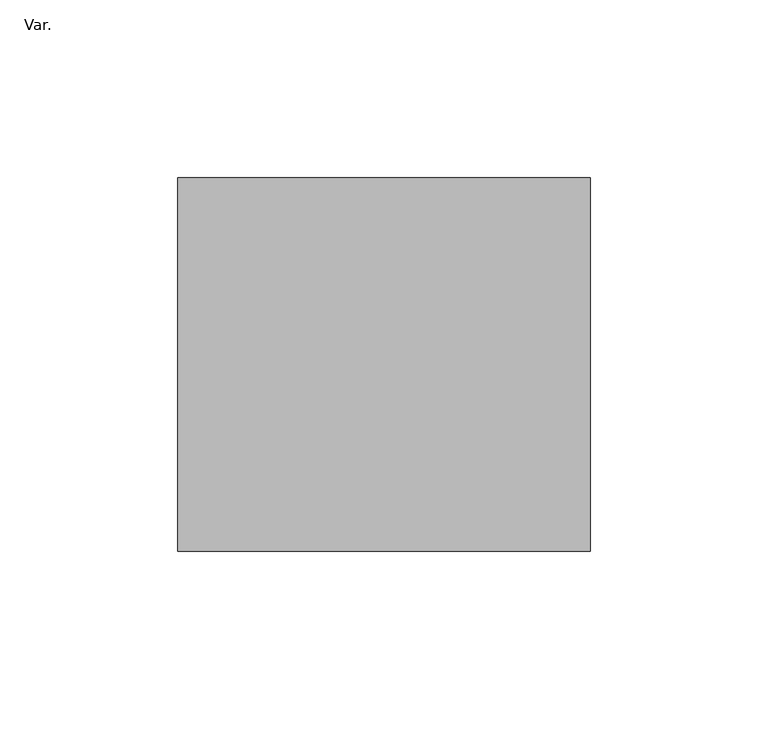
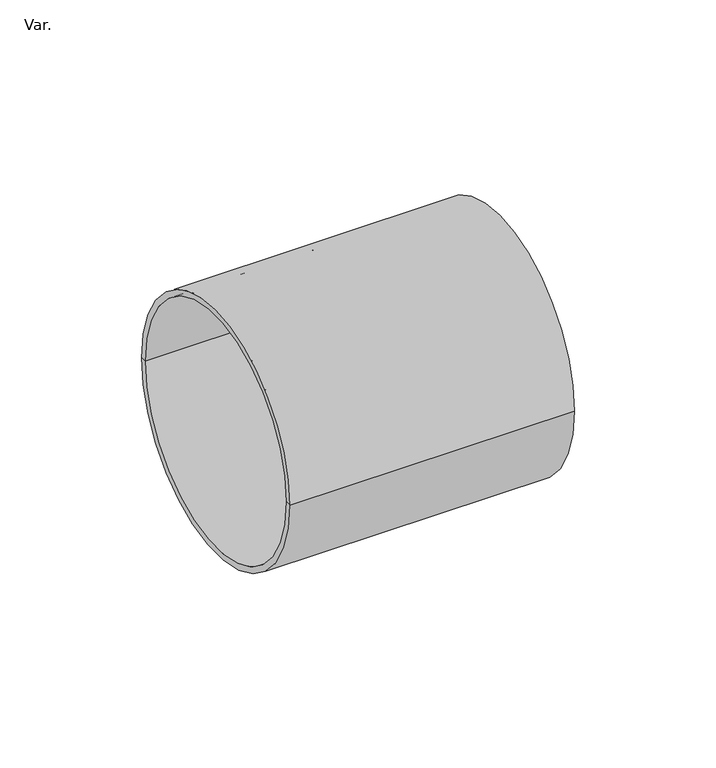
"""IFC4 building model written with IfcOpenShell, lengths in millimetres: pipe fitting geometry, AmancoWavin_ConexõesdeTubos_QSUnião : Var.."""

import ifcopenshell
import ifcopenshell.guid

model = None  # the IFC model being written
_history = None  # IfcOwnerHistory: only IFC2X3 demands one
_inside = {}  # id of a spatial element -> (the spatial element, [elements in it])
_under = {}  # id of a project, library or spatial element -> (it, [spatial elements below it])
_declared = {}  # id of a project -> (the project, [libraries it declares])
_typed = {}  # id of a type object -> (the type object, [elements of that type])
_made_of = {}  # id of a material, layer set ... -> (it, [elements and type objects made of it])


def new_model(schema):
    """Start an empty IFC model of exactly this schema.

    Asked for "IFC4X3", IfcOpenShell would pick the latest addendum, in which some entities
    have other attributes; the version numbers below select the first issue.
    IFC2X3 requires an IfcOwnerHistory on every rooted entity: one is made here for all.
    """
    global model, _history
    if schema == "IFC4X3":
        model = ifcopenshell.file(schema_version=(4, 3, 0, 0))
    else:
        model = ifcopenshell.file(schema=schema)
    _inside.clear()
    _under.clear()
    _declared.clear()
    _typed.clear()
    _made_of.clear()
    _history = None
    if model.schema == "IFC2X3":
        org = make("IfcOrganization", Name="unknown")
        user = make(
            "IfcPersonAndOrganization",
            ThePerson=make("IfcPerson", FamilyName="unknown"),
            TheOrganization=org,
        )
        app = make(
            "IfcApplication",
            ApplicationDeveloper=org,
            Version="unknown",
            ApplicationFullName="unknown",
            ApplicationIdentifier="unknown",
        )
        _history = make(
            "IfcOwnerHistory",
            OwningUser=user,
            OwningApplication=app,
            ChangeAction="ADDED",
            CreationDate=0,
        )
    return model


def make(cls, **values):
    """One entity of the class cls with the attributes given. An attribute that is None is left unset."""
    return model.create_entity(
        cls, **{name: value for name, value in values.items() if value is not None}
    )


def rooted(cls, **values):
    """An entity with a GlobalId (a new one), such as an element, a storey or a relation."""
    return make(cls, GlobalId=ifcopenshell.guid.new(), OwnerHistory=_history, **values)


def si_unit(unit_type, name, prefix=None):
    """IfcSIUnit, for example si_unit("LENGTHUNIT", "METRE", prefix="MILLI")."""
    return make("IfcSIUnit", UnitType=unit_type, Prefix=prefix, Name=name)


def assignment(units):
    """IfcUnitAssignment: the units of a project."""
    return None if units is None else make("IfcUnitAssignment", Units=units)


def point(xyz):
    """IfcCartesianPoint."""
    return None if xyz is None else make("IfcCartesianPoint", Coordinates=xyz)


def direction(xyz):
    """IfcDirection."""
    return None if xyz is None else make("IfcDirection", DirectionRatios=xyz)


def frame(location, z_axis=None, x_axis=None):
    """IfcAxis2Placement3D, a coordinate frame: its origin and axes. An axis left out is left unset."""
    return make(
        "IfcAxis2Placement3D",
        Location=point(location),
        Axis=direction(z_axis),
        RefDirection=direction(x_axis),
    )


def origin():
    """The frame at (0, 0, 0) with its axes left unset."""
    return frame((0.0, 0.0, 0.0))


def place(relative_to, where):
    """IfcLocalPlacement: puts the frame where relative to a parent placement (None: the world)."""
    return make(
        "IfcLocalPlacement", PlacementRelTo=relative_to, RelativePlacement=where
    )


def context(
    kind, dimensions, precision=None, world=None, true_north=None, identifier=None
):
    """IfcGeometricRepresentationContext, for example the 3D "Model" context."""
    return make(
        "IfcGeometricRepresentationContext",
        ContextIdentifier=identifier,
        ContextType=kind,
        CoordinateSpaceDimension=dimensions,
        Precision=precision,
        WorldCoordinateSystem=world,
        TrueNorth=true_north,
    )


def project(units=None, contexts=None):
    """IfcProject with its units and contexts."""
    return rooted(
        "IfcProject",
        Name="project",
        RepresentationContexts=contexts,
        UnitsInContext=assignment(units),
    )


def spatial(cls, under=None, at=None, **own):
    """A site, building, storey or space (cls), placed at a placement, below another one or the project."""
    s = rooted(cls, ObjectPlacement=at, **own)
    if under is not None:
        _under.setdefault(under.id(), (under, []))[1].append(s)
    return s


def polyline(points):
    """IfcPolyline through the points."""
    return make("IfcPolyline", Points=[point(p) for p in points])


def circle_curve(where, radius):
    """IfcCircle in the frame where."""
    return make("IfcCircle", Position=where, Radius=radius)


def shape(context_of_items, identifier, shape_type, items):
    """IfcShapeRepresentation: the items that make up one representation, for example the "Body"."""
    return make(
        "IfcShapeRepresentation",
        ContextOfItems=context_of_items,
        RepresentationIdentifier=identifier,
        RepresentationType=shape_type,
        Items=items,
    )


def source(mapping_origin, context_of_items, identifier, shape_type, items):
    """IfcRepresentationMap: a shape defined once, which mapped items show again and again."""
    return make(
        "IfcRepresentationMap",
        MappingOrigin=mapping_origin,
        MappedRepresentation=shape(context_of_items, identifier, shape_type, items),
    )


def transform(
    local_origin,
    x_axis=None,
    y_axis=None,
    z_axis=None,
    scale=None,
    scale2=None,
    scale3=None,
    uniform=True,
):
    """IfcCartesianTransformationOperator3D, or its non-uniform kind. x_axis, y_axis, z_axis: its Axis1, 2, 3."""
    if uniform:
        return make(
            "IfcCartesianTransformationOperator3D",
            Axis1=direction(x_axis),
            Axis2=direction(y_axis),
            LocalOrigin=point(local_origin),
            Scale=scale,
            Axis3=direction(z_axis),
        )
    return make(
        "IfcCartesianTransformationOperator3DnonUniform",
        Axis1=direction(x_axis),
        Axis2=direction(y_axis),
        LocalOrigin=point(local_origin),
        Scale=scale,
        Axis3=direction(z_axis),
        Scale2=scale2,
        Scale3=scale3,
    )


def mapped(mapping_source, mapping_target):
    """IfcMappedItem: shows the shape of a source again, moved by a transform."""
    return make(
        "IfcMappedItem", MappingSource=mapping_source, MappingTarget=mapping_target
    )


def made_of(thing, what):
    """Note that an element or type object is made of a material, layer set ...; save() writes the relation."""
    if what is not None:
        _made_of.setdefault(what.id(), (what, []))[1].append(thing)
    return thing


def element(
    cls,
    number,
    at=None,
    inside=None,
    cuts=None,
    type_object=None,
    material=None,
    context=None,
    identifier="Body",
    shape_type=None,
    held_by="IfcProductDefinitionShape",
    body=None,
    shapes=None,
    **own,
):
    """One element of the class cls, such as IfcWall. Its Tag is "e" and its number.

    at: its placement. inside: the storey or other place that contains it. cuts: it is an
    opening in that element (IfcRelVoidsElement). A single representation is given by context,
    identifier, shape_type and body (its items); several are given by shapes. held_by: the class
    of the entity that holds the representations. save() writes the other relations.
    """
    e = rooted(cls, Tag="e%d" % number, ObjectPlacement=at, **own)
    if body is not None:
        shapes = [shape(context, identifier, shape_type, body)]
    if shapes is not None:
        e.Representation = make(held_by, Representations=shapes)
    if inside is not None:
        _inside.setdefault(inside.id(), (inside, []))[1].append(e)
    if cuts is not None:
        rooted(
            "IfcRelVoidsElement", RelatingBuildingElement=cuts, RelatedOpeningElement=e
        )
    if type_object is not None:
        _typed.setdefault(type_object.id(), (type_object, []))[1].append(e)
    return made_of(e, material)


def aggregate(whole, parts):
    """IfcRelAggregates: a whole, such as a stair, and the parts it consists of."""
    return rooted("IfcRelAggregates", RelatingObject=whole, RelatedObjects=parts)


def save(model, path):
    """Write the relations noted so far, then the file.

    IfcRelAggregates (storeys below a building ...), IfcRelContainedInSpatialStructure (elements
    in a storey), IfcRelDefinesByType, IfcRelAssociatesMaterial and IfcRelDeclares: one each for
    every whole, place, type object, material and project.
    """
    for whole, parts in _under.values():
        aggregate(whole, parts)
    for where, things in _inside.values():
        rooted(
            "IfcRelContainedInSpatialStructure",
            RelatedElements=things,
            RelatingStructure=where,
        )
    for kind, things in _typed.values():
        rooted("IfcRelDefinesByType", RelatedObjects=things, RelatingType=kind)
    for what, things in _made_of.values():
        rooted("IfcRelAssociatesMaterial", RelatedObjects=things, RelatingMaterial=what)
    for by, libraries in _declared.values():
        rooted("IfcRelDeclares", RelatingContext=by, RelatedDefinitions=libraries)
    model.write(path)


def plane_surface(at):
    """IfcPlane: the flat surface through the origin of the frame at, square to its z axis."""
    return make("IfcPlane", Position=at)


def cylinder_surface(at, radius):
    """IfcCylindricalSurface: all points at the distance radius from the z axis of the frame at."""
    return make("IfcCylindricalSurface", Position=at, Radius=radius)


def revolved_surface(curve, axis_point, axis_direction):
    """IfcSurfaceOfRevolution: the curve turned about the line through axis_point along axis_direction."""
    return make(
        "IfcSurfaceOfRevolution",
        SweptCurve=make("IfcArbitraryOpenProfileDef", ProfileType="CURVE", Curve=curve),
        AxisPosition=make("IfcAxis1Placement", Location=point(axis_point), Axis=direction(axis_direction)),
    )


def advanced_brep(points, edges, surfaces, faces):
    """IfcAdvancedBrep: a solid bounded by faces that lie on surfaces and meet in shared edges.

    An edge is (start, end): straight between two places in points (the first is 0);
    or (start, end, curve); or (start, end, curve, False) where it runs against its curve.
    A face is (place in surfaces, loops), or (place, loops, False) where it looks against
    its surface's normal. A loop lists edges by number (the first is 1), with a minus sign
    where the edge is run from its end to its start. The first loop is the outer one.
    """
    corners = [point(p) for p in points]
    vertices = [make("IfcVertexPoint", VertexGeometry=c) for c in corners]
    made = []
    for start, end, *more in edges:
        made.append(
            make(
                "IfcEdgeCurve",
                EdgeStart=vertices[start],
                EdgeEnd=vertices[end],
                EdgeGeometry=more[0] if more else make("IfcPolyline", Points=[corners[start], corners[end]]),
                SameSense=more[1] if len(more) > 1 else True,
            )
        )
    hull = []
    for where, loops, *sense in faces:
        bounds = []
        for j, loop in enumerate(loops):
            ring = [make("IfcOrientedEdge", EdgeElement=made[abs(k) - 1], Orientation=k > 0) for k in loop]
            bounds.append(
                make(
                    "IfcFaceOuterBound" if j == 0 else "IfcFaceBound",
                    Bound=make("IfcEdgeLoop", EdgeList=ring),
                    Orientation=True,
                )
            )
        hull.append(make("IfcAdvancedFace", Bounds=bounds, FaceSurface=surfaces[where], SameSense=sense[0] if sense else True))
    return make("IfcAdvancedBrep", Outer=make("IfcClosedShell", CfsFaces=hull))


def var_5ac05391(model_context):
    return source(origin(), model_context, "Body", "AdvancedBrep", [
        advanced_brep(
        [(-2.0, 0.0, 0.0), (-2.0, 50.0, 0.0), (-2.0, -50.0, 0.0), (2.0, -50.0, 0.0), (2.0, 50.0, 0.0), (2.0, 0.0, 0.0), (58.0, -50.0, 0.0), (58.0, 50.0, 0.0), (58.0, -52.5, 0.0), (58.0, 52.5, 0.0), (-58.0, -52.5, 0.0), (-58.0, 52.5, 0.0), (-58.0, -50.0, 0.0), (-58.0, 50.0, 0.0)],
        [
            (0, 1),
            (1, 2, circle_curve(frame((-2.0, 0.0, 0.0), z_axis=(-1.0, 0.0, 0.0), x_axis=(0.0, 1.0, 0.0)), 50.0)),
            (2, 0),
            (2, 1, circle_curve(frame((-2.0, 0.0, 0.0), z_axis=(-1.0, 0.0, 0.0), x_axis=(0.0, 1.0, 0.0)), 50.0)),
            (3, 4, circle_curve(frame((2.0, 0.0, 0.0), z_axis=(1.0, 0.0, 0.0), x_axis=(0.0, 1.0, 0.0)), 50.0)),
            (4, 5),
            (5, 3),
            (4, 3, circle_curve(frame((2.0, 0.0, 0.0), z_axis=(1.0, 0.0, 0.0), x_axis=(0.0, 1.0, 0.0)), 50.0)),
            (6, 7, circle_curve(frame((58.0, 0.0, 0.0), z_axis=(1.0, 0.0, 0.0), x_axis=(0.0, 1.0, 0.0)), 50.0)),
            (7, 4),
            (3, 6),
            (7, 6, circle_curve(frame((58.0, 0.0, 0.0), z_axis=(1.0, 0.0, 0.0), x_axis=(0.0, 1.0, 0.0)), 50.0)),
            (8, 9, circle_curve(frame((58.0, 0.0, 0.0), z_axis=(1.0, 0.0, 0.0), x_axis=(0.0, 1.0, 0.0)), 52.5)),
            (9, 7),
            (6, 8),
            (9, 8, circle_curve(frame((58.0, 0.0, 0.0), z_axis=(1.0, 0.0, 0.0), x_axis=(0.0, 1.0, 0.0)), 52.5)),
            (10, 11, circle_curve(frame((-58.0, 0.0, 0.0), z_axis=(1.0, 0.0, 0.0), x_axis=(0.0, 1.0, 0.0)), 52.5)),
            (11, 9),
            (8, 10),
            (11, 10, circle_curve(frame((-58.0, 0.0, 0.0), z_axis=(1.0, 0.0, 0.0), x_axis=(0.0, 1.0, 0.0)), 52.5)),
            (12, 13, circle_curve(frame((-58.0, 0.0, 0.0), z_axis=(1.0, 0.0, 0.0), x_axis=(0.0, 1.0, 0.0)), 50.0)),
            (13, 11),
            (10, 12),
            (13, 12, circle_curve(frame((-58.0, 0.0, 0.0), z_axis=(1.0, 0.0, 0.0), x_axis=(0.0, 1.0, 0.0)), 50.0)),
            (1, 13),
            (12, 2),
        ],
        [
            plane_surface(frame((-2.0, 0.0, 0.0), z_axis=(-1.0, 0.0, 0.0), x_axis=(0.0, 1.0, 0.0))),
            plane_surface(frame((2.0, 0.0, 0.0), z_axis=(1.0, 0.0, 0.0), x_axis=(0.0, 1.0, 0.0))),
            revolved_surface(polyline([(2.0, 50.0, 0.0), (58.0, 50.0, 0.0)]), (2000.0, 0.0, 0.0), (-1.0, 0.0, 0.0)),
            plane_surface(frame((58.0, 0.0, 0.0), z_axis=(1.0, 0.0, 0.0), x_axis=(0.0, 1.0, 0.0))),
            cylinder_surface(frame((2000.0, 0.0, 0.0), z_axis=(-1.0, 0.0, 0.0), x_axis=(0.0, 1.0, 0.0)), 52.5),
            plane_surface(frame((-58.0, 0.0, 0.0), z_axis=(-1.0, 0.0, 0.0), x_axis=(0.0, 1.0, 0.0))),
            revolved_surface(polyline([(-58.0, 50.0, 0.0), (-2.0, 50.0, 0.0)]), (2000.0, 0.0, 0.0), (-1.0, 0.0, 0.0)),
        ],
        [
            (0, [[1, 2, 3]]),
            (0, [[-3, 4, -1]]),
            (1, [[5, 6, 7]]),
            (1, [[8, -7, -6]]),
            (2, [[9, 10, -5, 11]]),
            (2, [[12, -11, -8, -10]]),
            (3, [[13, 14, -9, 15]]),
            (3, [[16, -15, -12, -14]]),
            (4, [[17, 18, -13, 19]]),
            (4, [[20, -19, -16, -18]]),
            (5, [[21, 22, -17, 23]]),
            (5, [[24, -23, -20, -22]]),
            (6, [[-2, 25, -21, 26]]),
            (6, [[-4, -26, -24, -25]]),
        ],
    ),
    ])


if __name__ == "__main__":
    model = new_model("IFC4")
    model_context = context("Model", 3, world=origin())
    ifc_project = project(units=[si_unit("LENGTHUNIT", "METRE", prefix="MILLI")], contexts=[model_context])
    site = spatial("IfcSite", under=ifc_project)
    building = spatial("IfcBuilding", under=site)
    placement = place(None, origin())
    var_shape = var_5ac05391(model_context)
    element("IfcPipeFitting", 1, ObjectType="AmancoWavin_ConexõesdeTubos_QSUnião : Var.", at=placement, inside=building, context=model_context, shape_type="MappedRepresentation", body=[
        mapped(var_shape, transform((0.0, 0.0, 0.0), x_axis=(1.0, 0.0, 0.0), y_axis=(0.0, 1.0, 0.0), z_axis=(0.0, 0.0, 1.0))),
    ])
    save(model, "model.ifc")
